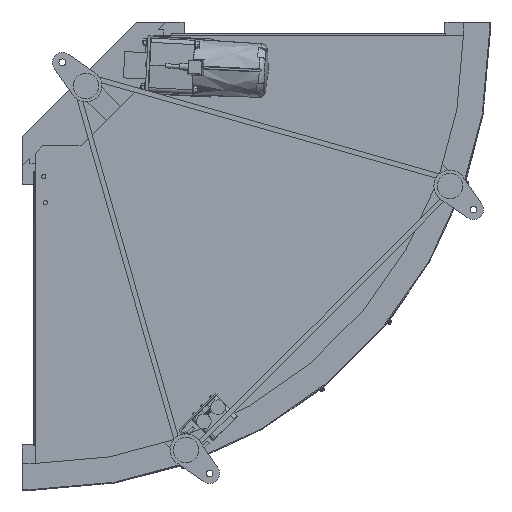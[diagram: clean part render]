
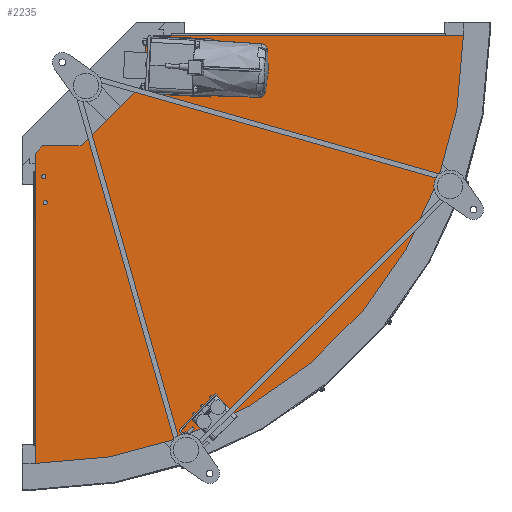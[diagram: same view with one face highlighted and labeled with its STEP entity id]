
A CAD part, front view. The second image highlights one B-rep face of the part: STEP entity #2235.
In plain terms, the highlighted planar face has unit normal (0, -1, 0).
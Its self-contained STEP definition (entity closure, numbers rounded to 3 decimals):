
#2235=ADVANCED_FACE('',(#7806,#7807,#7808,#7809,#7810),#7805,.F.);
#7805=PLANE('',#16458);
#7806=FACE_OUTER_BOUND('',#16459,.T.);
#7807=FACE_BOUND('',#16460,.T.);
#7808=FACE_BOUND('',#16461,.T.);
#7809=FACE_BOUND('',#16462,.T.);
#7810=FACE_BOUND('',#16463,.T.);
#16455=CARTESIAN_POINT('',(-10.,-152.7,-822.5));
#16456=DIRECTION('',(0.,1.,0.));
#16457=DIRECTION('',(0.,0.,1.));
#16458=AXIS2_PLACEMENT_3D('',#16455,#16456,#16457);
#16459=EDGE_LOOP('',(#23432,#23433,#23434,#23435,#23436,#23437,#23438,#23439));
#16460=EDGE_LOOP('',(#23440));
#16461=EDGE_LOOP('',(#23441));
#16462=EDGE_LOOP('',(#23442,#23443));
#16463=EDGE_LOOP('',(#23444,#23445));
#23432=ORIENTED_EDGE('',*,*,#27187,.T.);
#23433=ORIENTED_EDGE('',*,*,#27031,.F.);
#23434=ORIENTED_EDGE('',*,*,#27025,.F.);
#23435=ORIENTED_EDGE('',*,*,#27029,.F.);
#23436=ORIENTED_EDGE('',*,*,#27333,.T.);
#23437=ORIENTED_EDGE('',*,*,#27319,.F.);
#23438=ORIENTED_EDGE('',*,*,#27334,.F.);
#23439=ORIENTED_EDGE('',*,*,#27320,.F.);
#23440=ORIENTED_EDGE('',*,*,#27042,.F.);
#23441=ORIENTED_EDGE('',*,*,#27034,.F.);
#23442=ORIENTED_EDGE('',*,*,#27048,.F.);
#23443=ORIENTED_EDGE('',*,*,#27046,.F.);
#23444=ORIENTED_EDGE('',*,*,#27040,.F.);
#23445=ORIENTED_EDGE('',*,*,#27038,.F.);
#27025=EDGE_CURVE('',#35685,#35692,#35693,.T.);
#27029=EDGE_CURVE('',#35712,#35685,#35719,.T.);
#27031=EDGE_CURVE('',#35692,#35732,#35733,.T.);
#27034=EDGE_CURVE('',#35752,#35752,#35753,.T.);
#27038=EDGE_CURVE('',#35779,#35780,#35781,.T.);
#27040=EDGE_CURVE('',#35780,#35779,#35793,.T.);
#27042=EDGE_CURVE('',#35806,#35806,#35807,.T.);
#27046=EDGE_CURVE('',#35833,#35834,#35835,.T.);
#27048=EDGE_CURVE('',#35834,#35833,#35847,.T.);
#27187=EDGE_CURVE('',#36798,#35732,#36799,.T.);
#27319=EDGE_CURVE('',#37672,#37637,#37679,.T.);
#27320=EDGE_CURVE('',#36798,#37685,#37686,.T.);
#27333=EDGE_CURVE('',#35712,#37637,#37771,.T.);
#27334=EDGE_CURVE('',#37685,#37672,#37777,.T.);
#35685=VERTEX_POINT('',#50936);
#35692=VERTEX_POINT('',#50940);
#35693=LINE('',#50941,#50942);
#35712=VERTEX_POINT('',#50951);
#35719=LINE('',#50955,#50956);
#35732=VERTEX_POINT('',#50962);
#35733=LINE('',#50963,#50964);
#35752=VERTEX_POINT('',#50974);
#35753=CIRCLE('',#50978,4.);
#35779=VERTEX_POINT('',#50991);
#35780=VERTEX_POINT('',#50992);
#35781=CIRCLE('',#50996,4.);
#35793=CIRCLE('',#51002,4.);
#35806=VERTEX_POINT('',#51008);
#35807=CIRCLE('',#51012,4.);
#35833=VERTEX_POINT('',#51025);
#35834=VERTEX_POINT('',#51026);
#35835=CIRCLE('',#51030,4.);
#35847=CIRCLE('',#51036,4.);
#36798=VERTEX_POINT('',#52322);
#36799=LINE('',#52323,#52324);
#37637=VERTEX_POINT('',#53060);
#37672=VERTEX_POINT('',#53080);
#37679=LINE('',#53084,#53085);
#37685=VERTEX_POINT('',#53087);
#37686=LINE('',#53088,#53089);
#37771=LINE('',#53135,#53136);
#37777=CIRCLE('',#53141,812.5);
#50936=CARTESIAN_POINT('',(86.985,-152.7,-210.));
#50940=CARTESIAN_POINT('',(210.,-152.7,-86.985));
#50941=CARTESIAN_POINT('',(86.985,-152.7,-210.));
#50942=VECTOR('',#50943,173.97);
#50943=DIRECTION('',(0.707,0.,0.707));
#50951=CARTESIAN_POINT('',(14.1,-152.7,-210.));
#50955=CARTESIAN_POINT('',(14.1,-152.7,-210.));
#50956=VECTOR('',#50957,72.885);
#50957=DIRECTION('',(1.,0.,0.));
#50962=CARTESIAN_POINT('',(210.,-152.7,-14.1));
#50963=CARTESIAN_POINT('',(210.,-152.7,-86.985));
#50964=VECTOR('',#50965,72.885);
#50965=DIRECTION('',(0.,0.,1.));
#50974=CARTESIAN_POINT('',(16.5,-152.7,-264.));
#50975=CARTESIAN_POINT('',(16.5,-152.7,-268.));
#50976=DIRECTION('',(0.,-1.,0.));
#50977=DIRECTION('',(0.,0.,1.));
#50978=AXIS2_PLACEMENT_3D('',#50975,#50976,#50977);
#50991=CARTESIAN_POINT('',(317.937,-152.7,-23.));
#50992=CARTESIAN_POINT('',(317.937,-152.7,-15.));
#50993=CARTESIAN_POINT('',(317.937,-152.7,-19.));
#50994=DIRECTION('',(0.,-1.,0.));
#50995=DIRECTION('',(0.,0.,-1.));
#50996=AXIS2_PLACEMENT_3D('',#50993,#50994,#50995);
#50999=CARTESIAN_POINT('',(317.937,-152.7,-19.));
#51000=DIRECTION('',(0.,-1.,0.));
#51001=DIRECTION('',(0.,0.,-1.));
#51002=AXIS2_PLACEMENT_3D('',#50999,#51000,#51001);
#51008=CARTESIAN_POINT('',(19.,-152.7,-313.937));
#51009=CARTESIAN_POINT('',(19.,-152.7,-317.937));
#51010=DIRECTION('',(0.,-1.,0.));
#51011=DIRECTION('',(0.,0.,1.));
#51012=AXIS2_PLACEMENT_3D('',#51009,#51010,#51011);
#51025=CARTESIAN_POINT('',(268.,-152.7,-20.5));
#51026=CARTESIAN_POINT('',(268.,-152.7,-12.5));
#51027=CARTESIAN_POINT('',(268.,-152.7,-16.5));
#51028=DIRECTION('',(0.,-1.,0.));
#51029=DIRECTION('',(0.,0.,-1.));
#51030=AXIS2_PLACEMENT_3D('',#51027,#51028,#51029);
#51033=CARTESIAN_POINT('',(268.,-152.7,-16.5));
#51034=DIRECTION('',(0.,-1.,0.));
#51035=DIRECTION('',(0.,0.,-1.));
#51036=AXIS2_PLACEMENT_3D('',#51033,#51034,#51035);
#52322=CARTESIAN_POINT('',(224.1,-152.7,0.));
#52323=CARTESIAN_POINT('',(224.1,-152.7,0.));
#52324=VECTOR('',#52325,19.94);
#52325=DIRECTION('',(-0.707,0.,-0.707));
#53060=CARTESIAN_POINT('',(0.,-152.7,-224.1));
#53080=CARTESIAN_POINT('',(0.,-152.7,-812.5));
#53084=CARTESIAN_POINT('',(0.,-152.7,-812.5));
#53085=VECTOR('',#53086,588.4);
#53086=DIRECTION('',(0.,0.,1.));
#53087=CARTESIAN_POINT('',(812.5,-152.7,0.));
#53088=CARTESIAN_POINT('',(224.1,-152.7,0.));
#53089=VECTOR('',#53090,588.4);
#53090=DIRECTION('',(1.,0.,0.));
#53135=CARTESIAN_POINT('',(14.1,-152.7,-210.));
#53136=VECTOR('',#53137,19.94);
#53137=DIRECTION('',(-0.707,0.,-0.707));
#53138=CARTESIAN_POINT('',(0.,-152.7,0.));
#53139=DIRECTION('',(0.,1.,0.));
#53140=DIRECTION('',(0.,0.,-1.));
#53141=AXIS2_PLACEMENT_3D('',#53138,#53139,#53140);
